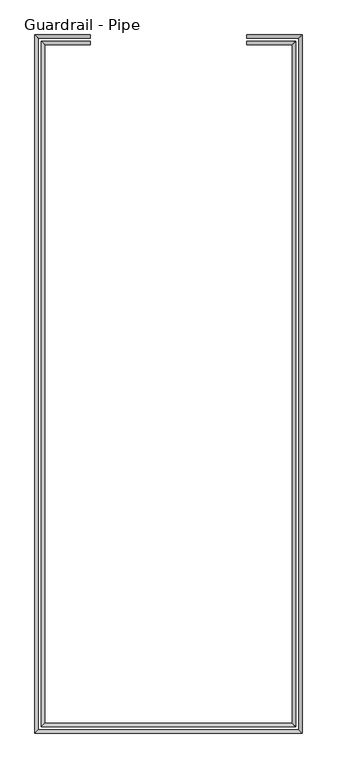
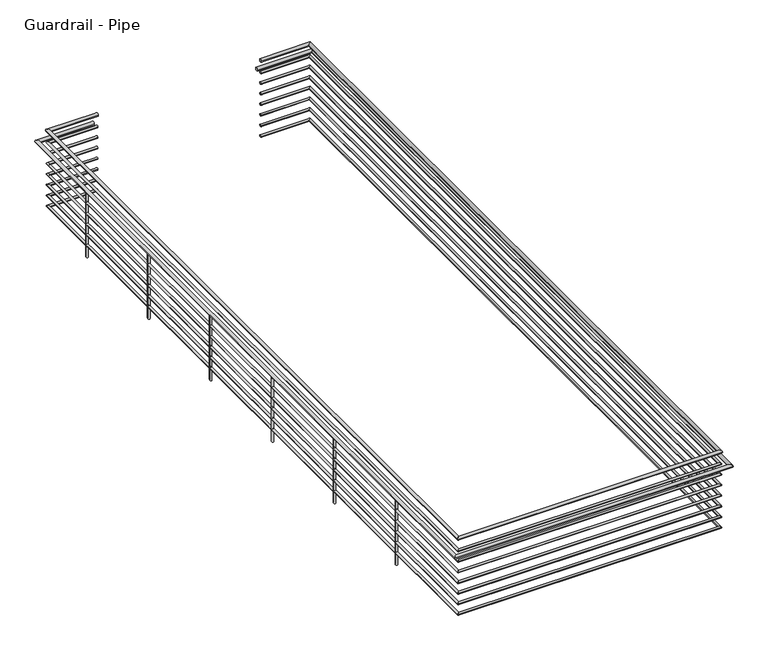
"""IFC4 building model written with IfcOpenShell, lengths in millimetres: railing geometry, Guardrail - Pipe."""

from ifc_helpers import new_model, si_unit, frame, origin, place, context, project, spatial, circle_curve, ellipse_curve, source, transform, mapped, element, save
from ifc_brep_helpers import plane_surface, cylinder_surface, advanced_brep


def guardrail_pipe_deec17ca(model_context):
    return source(origin(), model_context, "Body", "AdvancedBrep", [
        advanced_brep(
        [(13389.3313551, 18983.25, 8362.95), (13389.3313551, 18945.15, 8362.95), (13967.1813551, 18983.25, 8362.95), (13929.0813551, 18945.15, 8362.95), (13967.1813551, 10867.95, 8362.95), (13929.0813551, 10906.05, 8362.95), (10956.4813551, 10867.95, 8362.95), (10994.5813551, 10906.05, 8362.95), (10956.4813551, 18983.25, 8362.95), (10994.5813551, 18945.15, 8362.95), (11534.3313551, 18983.25, 8362.95), (11534.3313551, 18945.15, 8362.95)],
        [
            (0, 1, circle_curve(frame((13389.3313551, 18964.2, 8362.95), z_axis=(-1.0, 0.0, 0.0), x_axis=(0.0, -1.0, 0.0)), 19.05)),
            (1, 0, circle_curve(frame((13389.3313551, 18964.2, 8362.95), z_axis=(-1.0, 0.0, 0.0), x_axis=(0.0, -1.0, 0.0)), 19.05)),
            (0, 2),
            (2, 3, ellipse_curve(frame((13948.1313551, 18964.2, 8362.95), z_axis=(-0.7071067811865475, 0.7071067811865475, 0.0), x_axis=(-0.7071067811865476, -0.7071067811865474, 0.0)), 26.9407684, 19.05)),
            (3, 1),
            (3, 2, ellipse_curve(frame((13948.1313551, 18964.2, 8362.95), z_axis=(-0.7071067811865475, 0.7071067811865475, 0.0), x_axis=(-0.7071067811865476, -0.7071067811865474, 0.0)), 26.9407684, 19.05)),
            (2, 4),
            (4, 5, ellipse_curve(frame((13948.1313551, 10887.0, 8362.95), z_axis=(0.7071067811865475, 0.7071067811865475, 0.0), x_axis=(-0.7071067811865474, 0.7071067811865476, 0.0)), 26.9407684, 19.05)),
            (5, 3),
            (5, 4, ellipse_curve(frame((13948.1313551, 10887.0, 8362.95), z_axis=(0.7071067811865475, 0.7071067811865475, 0.0), x_axis=(-0.7071067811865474, 0.7071067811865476, 0.0)), 26.9407684, 19.05)),
            (4, 6),
            (6, 7, ellipse_curve(frame((10975.5313551, 10887.0, 8362.95), z_axis=(0.7071067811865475, -0.7071067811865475, 0.0), x_axis=(0.7071067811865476, 0.7071067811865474, 0.0)), 26.9407684, 19.05)),
            (7, 5),
            (7, 6, ellipse_curve(frame((10975.5313551, 10887.0, 8362.95), z_axis=(0.7071067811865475, -0.7071067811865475, 0.0), x_axis=(0.7071067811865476, 0.7071067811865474, 0.0)), 26.9407684, 19.05)),
            (6, 8),
            (8, 9, ellipse_curve(frame((10975.5313551, 18964.2, 8362.95), z_axis=(-0.7071067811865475, -0.7071067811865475, 0.0), x_axis=(0.7071067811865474, -0.7071067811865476, 0.0)), 26.9407684, 19.05)),
            (9, 7),
            (9, 8, ellipse_curve(frame((10975.5313551, 18964.2, 8362.95), z_axis=(-0.7071067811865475, -0.7071067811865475, 0.0), x_axis=(0.7071067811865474, -0.7071067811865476, 0.0)), 26.9407684, 19.05)),
            (10, 11, circle_curve(frame((11534.3313551, 18964.2, 8362.95), z_axis=(1.0, 0.0, 0.0), x_axis=(0.0, -1.0, 0.0)), 19.05)),
            (11, 10, circle_curve(frame((11534.3313551, 18964.2, 8362.95), z_axis=(1.0, 0.0, 0.0), x_axis=(0.0, -1.0, 0.0)), 19.05)),
            (8, 10),
            (11, 9),
        ],
        [
            plane_surface(frame((13389.3313551, 18964.2, 8382.0), z_axis=(-1.0, 0.0, 0.0), x_axis=(0.0, 1.0, 0.0))),
            cylinder_surface(frame((13389.3313551, 18964.2, 8362.95), z_axis=(-1.0, 0.0, 0.0), x_axis=(0.0, -1.0, 0.0)), 19.05),
            cylinder_surface(frame((13948.1313551, 18964.2, 8362.95), z_axis=(0.0, 1.0, 0.0), x_axis=(-1.0, 0.0, 0.0)), 19.05),
            cylinder_surface(frame((13948.1313551, 10887.0, 8362.95), z_axis=(1.0, 0.0, 0.0), x_axis=(0.0, 1.0, 0.0)), 19.05),
            cylinder_surface(frame((10975.5313551, 10887.0, 8362.95), z_axis=(0.0, -1.0, 0.0), x_axis=(1.0, 0.0, 0.0)), 19.05),
            plane_surface(frame((11534.3313551, 18964.2, 8382.0), z_axis=(1.0, 0.0, 0.0), x_axis=(0.0, 1.0, 0.0))),
            cylinder_surface(frame((10975.5313551, 18964.2, 8362.95), z_axis=(-1.0, 0.0, 0.0), x_axis=(0.0, -1.0, 0.0)), 19.05),
        ],
        [
            (0, [[1, 2]]),
            (1, [[-1, 3, 4, 5]]),
            (1, [[-2, -5, 6, -3]]),
            (2, [[-4, 7, 8, 9]]),
            (2, [[-6, -9, 10, -7]]),
            (3, [[-8, 11, 12, 13]]),
            (3, [[-10, -13, 14, -11]]),
            (4, [[-12, 15, 16, 17]]),
            (4, [[-14, -17, 18, -15]]),
            (5, [[19, 20]]),
            (6, [[-16, 21, -20, 22]]),
            (6, [[-18, -22, -19, -21]]),
        ],
    ),
        advanced_brep(
        [(13389.3313551, 18976.9, 8216.9), (13389.3313551, 18951.5, 8216.9), (13960.8313551, 18976.9, 8216.9), (13935.4313551, 18951.5, 8216.9), (13960.8313551, 10874.3, 8216.9), (13935.4313551, 10899.7, 8216.9), (10962.8313551, 10874.3, 8216.9), (10988.2313551, 10899.7, 8216.9), (10962.8313551, 18976.9, 8216.9), (10988.2313551, 18951.5, 8216.9), (11534.3313551, 18976.9, 8216.9), (11534.3313551, 18951.5, 8216.9)],
        [
            (0, 1, circle_curve(frame((13389.3313551, 18964.2, 8216.9), z_axis=(-1.0, 0.0, 0.0), x_axis=(0.0, -1.0, 0.0)), 12.7)),
            (1, 0, circle_curve(frame((13389.3313551, 18964.2, 8216.9), z_axis=(-1.0, 0.0, 0.0), x_axis=(0.0, -1.0, 0.0)), 12.7)),
            (0, 2),
            (2, 3, ellipse_curve(frame((13948.1313551, 18964.2, 8216.9), z_axis=(-0.7071067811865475, 0.7071067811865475, 0.0), x_axis=(-0.7071067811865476, -0.7071067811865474, 0.0)), 17.9605122, 12.7)),
            (3, 1),
            (3, 2, ellipse_curve(frame((13948.1313551, 18964.2, 8216.9), z_axis=(-0.7071067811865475, 0.7071067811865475, 0.0), x_axis=(-0.7071067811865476, -0.7071067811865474, 0.0)), 17.9605122, 12.7)),
            (2, 4),
            (4, 5, ellipse_curve(frame((13948.1313551, 10887.0, 8216.9), z_axis=(0.7071067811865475, 0.7071067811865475, 0.0), x_axis=(-0.7071067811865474, 0.7071067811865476, 0.0)), 17.9605122, 12.7)),
            (5, 3),
            (5, 4, ellipse_curve(frame((13948.1313551, 10887.0, 8216.9), z_axis=(0.7071067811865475, 0.7071067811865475, 0.0), x_axis=(-0.7071067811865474, 0.7071067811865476, 0.0)), 17.9605122, 12.7)),
            (4, 6),
            (6, 7, ellipse_curve(frame((10975.5313551, 10887.0, 8216.9), z_axis=(0.7071067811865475, -0.7071067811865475, 0.0), x_axis=(0.7071067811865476, 0.7071067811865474, 0.0)), 17.9605122, 12.7)),
            (7, 5),
            (7, 6, ellipse_curve(frame((10975.5313551, 10887.0, 8216.9), z_axis=(0.7071067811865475, -0.7071067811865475, 0.0), x_axis=(0.7071067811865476, 0.7071067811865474, 0.0)), 17.9605122, 12.7)),
            (6, 8),
            (8, 9, ellipse_curve(frame((10975.5313551, 18964.2, 8216.9), z_axis=(-0.7071067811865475, -0.7071067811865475, 0.0), x_axis=(0.7071067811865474, -0.7071067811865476, 0.0)), 17.9605122, 12.7)),
            (9, 7),
            (9, 8, ellipse_curve(frame((10975.5313551, 18964.2, 8216.9), z_axis=(-0.7071067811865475, -0.7071067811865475, 0.0), x_axis=(0.7071067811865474, -0.7071067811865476, 0.0)), 17.9605122, 12.7)),
            (10, 11, circle_curve(frame((11534.3313551, 18964.2, 8216.9), z_axis=(1.0, 0.0, 0.0), x_axis=(0.0, -1.0, 0.0)), 12.7)),
            (11, 10, circle_curve(frame((11534.3313551, 18964.2, 8216.9), z_axis=(1.0, 0.0, 0.0), x_axis=(0.0, -1.0, 0.0)), 12.7)),
            (8, 10),
            (11, 9),
        ],
        [
            plane_surface(frame((13389.3313551, 18964.2, 8229.6), z_axis=(-1.0, 0.0, 0.0), x_axis=(0.0, 1.0, 0.0))),
            cylinder_surface(frame((13389.3313551, 18964.2, 8216.9), z_axis=(-1.0, 0.0, 0.0), x_axis=(0.0, -1.0, 0.0)), 12.7),
            cylinder_surface(frame((13948.1313551, 18964.2, 8216.9), z_axis=(0.0, 1.0, 0.0), x_axis=(-1.0, 0.0, 0.0)), 12.7),
            cylinder_surface(frame((13948.1313551, 10887.0, 8216.9), z_axis=(1.0, 0.0, 0.0), x_axis=(0.0, 1.0, 0.0)), 12.7),
            cylinder_surface(frame((10975.5313551, 10887.0, 8216.9), z_axis=(0.0, -1.0, 0.0), x_axis=(1.0, 0.0, 0.0)), 12.7),
            plane_surface(frame((11534.3313551, 18964.2, 8229.6), z_axis=(1.0, 0.0, 0.0), x_axis=(0.0, 1.0, 0.0))),
            cylinder_surface(frame((10975.5313551, 18964.2, 8216.9), z_axis=(-1.0, 0.0, 0.0), x_axis=(0.0, -1.0, 0.0)), 12.7),
        ],
        [
            (0, [[1, 2]]),
            (1, [[-1, 3, 4, 5]]),
            (1, [[-2, -5, 6, -3]]),
            (2, [[-4, 7, 8, 9]]),
            (2, [[-6, -9, 10, -7]]),
            (3, [[-8, 11, 12, 13]]),
            (3, [[-10, -13, 14, -11]]),
            (4, [[-12, 15, 16, 17]]),
            (4, [[-14, -17, 18, -15]]),
            (5, [[19, 20]]),
            (6, [[-16, 21, -20, 22]]),
            (6, [[-18, -22, -19, -21]]),
        ],
    ),
        advanced_brep(
        [(13389.3313551, 19059.45, 8210.55), (13389.3313551, 19021.35, 8210.55), (14043.3813551, 19059.45, 8210.55), (14005.2813551, 19021.35, 8210.55), (14043.3813551, 10791.75, 8210.55), (14005.2813551, 10829.85, 8210.55), (10880.2813551, 10791.75, 8210.55), (10918.3813551, 10829.85, 8210.55), (10880.2813551, 19059.45, 8210.55), (10918.3813551, 19021.35, 8210.55), (11534.3313551, 19059.45, 8210.55), (11534.3313551, 19021.35, 8210.55)],
        [
            (0, 1, circle_curve(frame((13389.3313551, 19040.4, 8210.55), z_axis=(-1.0, 0.0, 0.0), x_axis=(0.0, -1.0, 0.0)), 19.05)),
            (1, 0, circle_curve(frame((13389.3313551, 19040.4, 8210.55), z_axis=(-1.0, 0.0, 0.0), x_axis=(0.0, -1.0, 0.0)), 19.05)),
            (0, 2),
            (2, 3, ellipse_curve(frame((14024.3313551, 19040.4, 8210.55), z_axis=(-0.7071067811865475, 0.7071067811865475, 0.0), x_axis=(-0.7071067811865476, -0.7071067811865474, 0.0)), 26.9407684, 19.05)),
            (3, 1),
            (3, 2, ellipse_curve(frame((14024.3313551, 19040.4, 8210.55), z_axis=(-0.7071067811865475, 0.7071067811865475, 0.0), x_axis=(-0.7071067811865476, -0.7071067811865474, 0.0)), 26.9407684, 19.05)),
            (2, 4),
            (4, 5, ellipse_curve(frame((14024.3313551, 10810.8, 8210.55), z_axis=(0.7071067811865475, 0.7071067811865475, 0.0), x_axis=(-0.7071067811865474, 0.7071067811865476, 0.0)), 26.9407684, 19.05)),
            (5, 3),
            (5, 4, ellipse_curve(frame((14024.3313551, 10810.8, 8210.55), z_axis=(0.7071067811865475, 0.7071067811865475, 0.0), x_axis=(-0.7071067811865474, 0.7071067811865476, 0.0)), 26.9407684, 19.05)),
            (4, 6),
            (6, 7, ellipse_curve(frame((10899.3313551, 10810.8, 8210.55), z_axis=(0.7071067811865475, -0.7071067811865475, 0.0), x_axis=(0.7071067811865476, 0.7071067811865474, 0.0)), 26.9407684, 19.05)),
            (7, 5),
            (7, 6, ellipse_curve(frame((10899.3313551, 10810.8, 8210.55), z_axis=(0.7071067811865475, -0.7071067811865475, 0.0), x_axis=(0.7071067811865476, 0.7071067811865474, 0.0)), 26.9407684, 19.05)),
            (6, 8),
            (8, 9, ellipse_curve(frame((10899.3313551, 19040.4, 8210.55), z_axis=(-0.7071067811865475, -0.7071067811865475, 0.0), x_axis=(0.7071067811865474, -0.7071067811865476, 0.0)), 26.9407684, 19.05)),
            (9, 7),
            (9, 8, ellipse_curve(frame((10899.3313551, 19040.4, 8210.55), z_axis=(-0.7071067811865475, -0.7071067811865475, 0.0), x_axis=(0.7071067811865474, -0.7071067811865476, 0.0)), 26.9407684, 19.05)),
            (10, 11, circle_curve(frame((11534.3313551, 19040.4, 8210.55), z_axis=(1.0, 0.0, 0.0), x_axis=(0.0, -1.0, 0.0)), 19.05)),
            (11, 10, circle_curve(frame((11534.3313551, 19040.4, 8210.55), z_axis=(1.0, 0.0, 0.0), x_axis=(0.0, -1.0, 0.0)), 19.05)),
            (8, 10),
            (11, 9),
        ],
        [
            plane_surface(frame((13389.3313551, 19040.4, 8229.6), z_axis=(-1.0, 0.0, 0.0), x_axis=(0.0, 1.0, 0.0))),
            cylinder_surface(frame((13389.3313551, 19040.4, 8210.55), z_axis=(-1.0, 0.0, 0.0), x_axis=(0.0, -1.0, 0.0)), 19.05),
            cylinder_surface(frame((14024.3313551, 19040.4, 8210.55), z_axis=(0.0, 1.0, 0.0), x_axis=(-1.0, 0.0, 0.0)), 19.05),
            cylinder_surface(frame((14024.3313551, 10810.8, 8210.55), z_axis=(1.0, 0.0, 0.0), x_axis=(0.0, 1.0, 0.0)), 19.05),
            cylinder_surface(frame((10899.3313551, 10810.8, 8210.55), z_axis=(0.0, -1.0, 0.0), x_axis=(1.0, 0.0, 0.0)), 19.05),
            plane_surface(frame((11534.3313551, 19040.4, 8229.6), z_axis=(1.0, 0.0, 0.0), x_axis=(0.0, 1.0, 0.0))),
            cylinder_surface(frame((10899.3313551, 19040.4, 8210.55), z_axis=(-1.0, 0.0, 0.0), x_axis=(0.0, -1.0, 0.0)), 19.05),
        ],
        [
            (0, [[1, 2]]),
            (1, [[-1, 3, 4, 5]]),
            (1, [[-2, -5, 6, -3]]),
            (2, [[-4, 7, 8, 9]]),
            (2, [[-6, -9, 10, -7]]),
            (3, [[-8, 11, 12, 13]]),
            (3, [[-10, -13, 14, -11]]),
            (4, [[-12, 15, 16, 17]]),
            (4, [[-14, -17, 18, -15]]),
            (5, [[19, 20]]),
            (6, [[-16, 21, -20, 22]]),
            (6, [[-18, -22, -19, -21]]),
        ],
    ),
        advanced_brep(
        [(13389.3313551, 18976.9, 8089.9), (13389.3313551, 18951.5, 8089.9), (13960.8313551, 18976.9, 8089.9), (13935.4313551, 18951.5, 8089.9), (13960.8313551, 10874.3, 8089.9), (13935.4313551, 10899.7, 8089.9), (10962.8313551, 10874.3, 8089.9), (10988.2313551, 10899.7, 8089.9), (10962.8313551, 18976.9, 8089.9), (10988.2313551, 18951.5, 8089.9), (11534.3313551, 18976.9, 8089.9), (11534.3313551, 18951.5, 8089.9)],
        [
            (0, 1, circle_curve(frame((13389.3313551, 18964.2, 8089.9), z_axis=(-1.0, 0.0, 0.0), x_axis=(0.0, -1.0, 0.0)), 12.7)),
            (1, 0, circle_curve(frame((13389.3313551, 18964.2, 8089.9), z_axis=(-1.0, 0.0, 0.0), x_axis=(0.0, -1.0, 0.0)), 12.7)),
            (0, 2),
            (2, 3, ellipse_curve(frame((13948.1313551, 18964.2, 8089.9), z_axis=(-0.7071067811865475, 0.7071067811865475, 0.0), x_axis=(-0.7071067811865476, -0.7071067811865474, 0.0)), 17.9605122, 12.7)),
            (3, 1),
            (3, 2, ellipse_curve(frame((13948.1313551, 18964.2, 8089.9), z_axis=(-0.7071067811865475, 0.7071067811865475, 0.0), x_axis=(-0.7071067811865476, -0.7071067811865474, 0.0)), 17.9605122, 12.7)),
            (2, 4),
            (4, 5, ellipse_curve(frame((13948.1313551, 10887.0, 8089.9), z_axis=(0.7071067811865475, 0.7071067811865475, 0.0), x_axis=(-0.7071067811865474, 0.7071067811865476, 0.0)), 17.9605122, 12.7)),
            (5, 3),
            (5, 4, ellipse_curve(frame((13948.1313551, 10887.0, 8089.9), z_axis=(0.7071067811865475, 0.7071067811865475, 0.0), x_axis=(-0.7071067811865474, 0.7071067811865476, 0.0)), 17.9605122, 12.7)),
            (4, 6),
            (6, 7, ellipse_curve(frame((10975.5313551, 10887.0, 8089.9), z_axis=(0.7071067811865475, -0.7071067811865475, 0.0), x_axis=(0.7071067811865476, 0.7071067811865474, 0.0)), 17.9605122, 12.7)),
            (7, 5),
            (7, 6, ellipse_curve(frame((10975.5313551, 10887.0, 8089.9), z_axis=(0.7071067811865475, -0.7071067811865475, 0.0), x_axis=(0.7071067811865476, 0.7071067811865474, 0.0)), 17.9605122, 12.7)),
            (6, 8),
            (8, 9, ellipse_curve(frame((10975.5313551, 18964.2, 8089.9), z_axis=(-0.7071067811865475, -0.7071067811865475, 0.0), x_axis=(0.7071067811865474, -0.7071067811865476, 0.0)), 17.9605122, 12.7)),
            (9, 7),
            (9, 8, ellipse_curve(frame((10975.5313551, 18964.2, 8089.9), z_axis=(-0.7071067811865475, -0.7071067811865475, 0.0), x_axis=(0.7071067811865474, -0.7071067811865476, 0.0)), 17.9605122, 12.7)),
            (10, 11, circle_curve(frame((11534.3313551, 18964.2, 8089.9), z_axis=(1.0, 0.0, 0.0), x_axis=(0.0, -1.0, 0.0)), 12.7)),
            (11, 10, circle_curve(frame((11534.3313551, 18964.2, 8089.9), z_axis=(1.0, 0.0, 0.0), x_axis=(0.0, -1.0, 0.0)), 12.7)),
            (8, 10),
            (11, 9),
        ],
        [
            plane_surface(frame((13389.3313551, 18964.2, 8102.6), z_axis=(-1.0, 0.0, 0.0), x_axis=(0.0, 1.0, 0.0))),
            cylinder_surface(frame((13389.3313551, 18964.2, 8089.9), z_axis=(-1.0, 0.0, 0.0), x_axis=(0.0, -1.0, 0.0)), 12.7),
            cylinder_surface(frame((13948.1313551, 18964.2, 8089.9), z_axis=(0.0, 1.0, 0.0), x_axis=(-1.0, 0.0, 0.0)), 12.7),
            cylinder_surface(frame((13948.1313551, 10887.0, 8089.9), z_axis=(1.0, 0.0, 0.0), x_axis=(0.0, 1.0, 0.0)), 12.7),
            cylinder_surface(frame((10975.5313551, 10887.0, 8089.9), z_axis=(0.0, -1.0, 0.0), x_axis=(1.0, 0.0, 0.0)), 12.7),
            plane_surface(frame((11534.3313551, 18964.2, 8102.6), z_axis=(1.0, 0.0, 0.0), x_axis=(0.0, 1.0, 0.0))),
            cylinder_surface(frame((10975.5313551, 18964.2, 8089.9), z_axis=(-1.0, 0.0, 0.0), x_axis=(0.0, -1.0, 0.0)), 12.7),
        ],
        [
            (0, [[1, 2]]),
            (1, [[-1, 3, 4, 5]]),
            (1, [[-2, -5, 6, -3]]),
            (2, [[-4, 7, 8, 9]]),
            (2, [[-6, -9, 10, -7]]),
            (3, [[-8, 11, 12, 13]]),
            (3, [[-10, -13, 14, -11]]),
            (4, [[-12, 15, 16, 17]]),
            (4, [[-14, -17, 18, -15]]),
            (5, [[19, 20]]),
            (6, [[-16, 21, -20, 22]]),
            (6, [[-18, -22, -19, -21]]),
        ],
    ),
        advanced_brep(
        [(13389.3313551, 18976.9, 7962.9), (13389.3313551, 18951.5, 7962.9), (13960.8313551, 18976.9, 7962.9), (13935.4313551, 18951.5, 7962.9), (13960.8313551, 10874.3, 7962.9), (13935.4313551, 10899.7, 7962.9), (10962.8313551, 10874.3, 7962.9), (10988.2313551, 10899.7, 7962.9), (10962.8313551, 18976.9, 7962.9), (10988.2313551, 18951.5, 7962.9), (11534.3313551, 18976.9, 7962.9), (11534.3313551, 18951.5, 7962.9)],
        [
            (0, 1, circle_curve(frame((13389.3313551, 18964.2, 7962.9), z_axis=(-1.0, 0.0, 0.0), x_axis=(0.0, -1.0, 0.0)), 12.7)),
            (1, 0, circle_curve(frame((13389.3313551, 18964.2, 7962.9), z_axis=(-1.0, 0.0, 0.0), x_axis=(0.0, -1.0, 0.0)), 12.7)),
            (0, 2),
            (2, 3, ellipse_curve(frame((13948.1313551, 18964.2, 7962.9), z_axis=(-0.7071067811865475, 0.7071067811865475, 0.0), x_axis=(-0.7071067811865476, -0.7071067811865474, 0.0)), 17.9605122, 12.7)),
            (3, 1),
            (3, 2, ellipse_curve(frame((13948.1313551, 18964.2, 7962.9), z_axis=(-0.7071067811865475, 0.7071067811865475, 0.0), x_axis=(-0.7071067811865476, -0.7071067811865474, 0.0)), 17.9605122, 12.7)),
            (2, 4),
            (4, 5, ellipse_curve(frame((13948.1313551, 10887.0, 7962.9), z_axis=(0.7071067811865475, 0.7071067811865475, 0.0), x_axis=(-0.7071067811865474, 0.7071067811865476, 0.0)), 17.9605122, 12.7)),
            (5, 3),
            (5, 4, ellipse_curve(frame((13948.1313551, 10887.0, 7962.9), z_axis=(0.7071067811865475, 0.7071067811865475, 0.0), x_axis=(-0.7071067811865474, 0.7071067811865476, 0.0)), 17.9605122, 12.7)),
            (4, 6),
            (6, 7, ellipse_curve(frame((10975.5313551, 10887.0, 7962.9), z_axis=(0.7071067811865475, -0.7071067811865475, 0.0), x_axis=(0.7071067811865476, 0.7071067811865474, 0.0)), 17.9605122, 12.7)),
            (7, 5),
            (7, 6, ellipse_curve(frame((10975.5313551, 10887.0, 7962.9), z_axis=(0.7071067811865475, -0.7071067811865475, 0.0), x_axis=(0.7071067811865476, 0.7071067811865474, 0.0)), 17.9605122, 12.7)),
            (6, 8),
            (8, 9, ellipse_curve(frame((10975.5313551, 18964.2, 7962.9), z_axis=(-0.7071067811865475, -0.7071067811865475, 0.0), x_axis=(0.7071067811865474, -0.7071067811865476, 0.0)), 17.9605122, 12.7)),
            (9, 7),
            (9, 8, ellipse_curve(frame((10975.5313551, 18964.2, 7962.9), z_axis=(-0.7071067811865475, -0.7071067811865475, 0.0), x_axis=(0.7071067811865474, -0.7071067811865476, 0.0)), 17.9605122, 12.7)),
            (10, 11, circle_curve(frame((11534.3313551, 18964.2, 7962.9), z_axis=(1.0, 0.0, 0.0), x_axis=(0.0, -1.0, 0.0)), 12.7)),
            (11, 10, circle_curve(frame((11534.3313551, 18964.2, 7962.9), z_axis=(1.0, 0.0, 0.0), x_axis=(0.0, -1.0, 0.0)), 12.7)),
            (8, 10),
            (11, 9),
        ],
        [
            plane_surface(frame((13389.3313551, 18964.2, 7975.6), z_axis=(-1.0, 0.0, 0.0), x_axis=(0.0, 1.0, 0.0))),
            cylinder_surface(frame((13389.3313551, 18964.2, 7962.9), z_axis=(-1.0, 0.0, 0.0), x_axis=(0.0, -1.0, 0.0)), 12.7),
            cylinder_surface(frame((13948.1313551, 18964.2, 7962.9), z_axis=(0.0, 1.0, 0.0), x_axis=(-1.0, 0.0, 0.0)), 12.7),
            cylinder_surface(frame((13948.1313551, 10887.0, 7962.9), z_axis=(1.0, 0.0, 0.0), x_axis=(0.0, 1.0, 0.0)), 12.7),
            cylinder_surface(frame((10975.5313551, 10887.0, 7962.9), z_axis=(0.0, -1.0, 0.0), x_axis=(1.0, 0.0, 0.0)), 12.7),
            plane_surface(frame((11534.3313551, 18964.2, 7975.6), z_axis=(1.0, 0.0, 0.0), x_axis=(0.0, 1.0, 0.0))),
            cylinder_surface(frame((10975.5313551, 18964.2, 7962.9), z_axis=(-1.0, 0.0, 0.0), x_axis=(0.0, -1.0, 0.0)), 12.7),
        ],
        [
            (0, [[1, 2]]),
            (1, [[-1, 3, 4, 5]]),
            (1, [[-2, -5, 6, -3]]),
            (2, [[-4, 7, 8, 9]]),
            (2, [[-6, -9, 10, -7]]),
            (3, [[-8, 11, 12, 13]]),
            (3, [[-10, -13, 14, -11]]),
            (4, [[-12, 15, 16, 17]]),
            (4, [[-14, -17, 18, -15]]),
            (5, [[19, 20]]),
            (6, [[-16, 21, -20, 22]]),
            (6, [[-18, -22, -19, -21]]),
        ],
    ),
        advanced_brep(
        [(13389.3313551, 18976.9, 7835.9), (13389.3313551, 18951.5, 7835.9), (13960.8313551, 18976.9, 7835.9), (13935.4313551, 18951.5, 7835.9), (13960.8313551, 10874.3, 7835.9), (13935.4313551, 10899.7, 7835.9), (10962.8313551, 10874.3, 7835.9), (10988.2313551, 10899.7, 7835.9), (10962.8313551, 18976.9, 7835.9), (10988.2313551, 18951.5, 7835.9), (11534.3313551, 18976.9, 7835.9), (11534.3313551, 18951.5, 7835.9)],
        [
            (0, 1, circle_curve(frame((13389.3313551, 18964.2, 7835.9), z_axis=(-1.0, 0.0, 0.0), x_axis=(0.0, -1.0, 0.0)), 12.7)),
            (1, 0, circle_curve(frame((13389.3313551, 18964.2, 7835.9), z_axis=(-1.0, 0.0, 0.0), x_axis=(0.0, -1.0, 0.0)), 12.7)),
            (0, 2),
            (2, 3, ellipse_curve(frame((13948.1313551, 18964.2, 7835.9), z_axis=(-0.7071067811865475, 0.7071067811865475, 0.0), x_axis=(-0.7071067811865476, -0.7071067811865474, 0.0)), 17.9605122, 12.7)),
            (3, 1),
            (3, 2, ellipse_curve(frame((13948.1313551, 18964.2, 7835.9), z_axis=(-0.7071067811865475, 0.7071067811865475, 0.0), x_axis=(-0.7071067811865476, -0.7071067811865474, 0.0)), 17.9605122, 12.7)),
            (2, 4),
            (4, 5, ellipse_curve(frame((13948.1313551, 10887.0, 7835.9), z_axis=(0.7071067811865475, 0.7071067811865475, 0.0), x_axis=(-0.7071067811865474, 0.7071067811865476, 0.0)), 17.9605122, 12.7)),
            (5, 3),
            (5, 4, ellipse_curve(frame((13948.1313551, 10887.0, 7835.9), z_axis=(0.7071067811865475, 0.7071067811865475, 0.0), x_axis=(-0.7071067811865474, 0.7071067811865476, 0.0)), 17.9605122, 12.7)),
            (4, 6),
            (6, 7, ellipse_curve(frame((10975.5313551, 10887.0, 7835.9), z_axis=(0.7071067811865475, -0.7071067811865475, 0.0), x_axis=(0.7071067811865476, 0.7071067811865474, 0.0)), 17.9605122, 12.7)),
            (7, 5),
            (7, 6, ellipse_curve(frame((10975.5313551, 10887.0, 7835.9), z_axis=(0.7071067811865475, -0.7071067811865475, 0.0), x_axis=(0.7071067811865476, 0.7071067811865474, 0.0)), 17.9605122, 12.7)),
            (6, 8),
            (8, 9, ellipse_curve(frame((10975.5313551, 18964.2, 7835.9), z_axis=(-0.7071067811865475, -0.7071067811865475, 0.0), x_axis=(0.7071067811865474, -0.7071067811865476, 0.0)), 17.9605122, 12.7)),
            (9, 7),
            (9, 8, ellipse_curve(frame((10975.5313551, 18964.2, 7835.9), z_axis=(-0.7071067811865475, -0.7071067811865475, 0.0), x_axis=(0.7071067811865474, -0.7071067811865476, 0.0)), 17.9605122, 12.7)),
            (10, 11, circle_curve(frame((11534.3313551, 18964.2, 7835.9), z_axis=(1.0, 0.0, 0.0), x_axis=(0.0, -1.0, 0.0)), 12.7)),
            (11, 10, circle_curve(frame((11534.3313551, 18964.2, 7835.9), z_axis=(1.0, 0.0, 0.0), x_axis=(0.0, -1.0, 0.0)), 12.7)),
            (8, 10),
            (11, 9),
        ],
        [
            plane_surface(frame((13389.3313551, 18964.2, 7848.6), z_axis=(-1.0, 0.0, 0.0), x_axis=(0.0, 1.0, 0.0))),
            cylinder_surface(frame((13389.3313551, 18964.2, 7835.9), z_axis=(-1.0, 0.0, 0.0), x_axis=(0.0, -1.0, 0.0)), 12.7),
            cylinder_surface(frame((13948.1313551, 18964.2, 7835.9), z_axis=(0.0, 1.0, 0.0), x_axis=(-1.0, 0.0, 0.0)), 12.7),
            cylinder_surface(frame((13948.1313551, 10887.0, 7835.9), z_axis=(1.0, 0.0, 0.0), x_axis=(0.0, 1.0, 0.0)), 12.7),
            cylinder_surface(frame((10975.5313551, 10887.0, 7835.9), z_axis=(0.0, -1.0, 0.0), x_axis=(1.0, 0.0, 0.0)), 12.7),
            plane_surface(frame((11534.3313551, 18964.2, 7848.6), z_axis=(1.0, 0.0, 0.0), x_axis=(0.0, 1.0, 0.0))),
            cylinder_surface(frame((10975.5313551, 18964.2, 7835.9), z_axis=(-1.0, 0.0, 0.0), x_axis=(0.0, -1.0, 0.0)), 12.7),
        ],
        [
            (0, [[1, 2]]),
            (1, [[-1, 3, 4, 5]]),
            (1, [[-2, -5, 6, -3]]),
            (2, [[-4, 7, 8, 9]]),
            (2, [[-6, -9, 10, -7]]),
            (3, [[-8, 11, 12, 13]]),
            (3, [[-10, -13, 14, -11]]),
            (4, [[-12, 15, 16, 17]]),
            (4, [[-14, -17, 18, -15]]),
            (5, [[19, 20]]),
            (6, [[-16, 21, -20, 22]]),
            (6, [[-18, -22, -19, -21]]),
        ],
    ),
        advanced_brep(
        [(13389.3313551, 18976.9, 7708.9), (13389.3313551, 18951.5, 7708.9), (13960.8313551, 18976.9, 7708.9), (13935.4313551, 18951.5, 7708.9), (13960.8313551, 10874.3, 7708.9), (13935.4313551, 10899.7, 7708.9), (10962.8313551, 10874.3, 7708.9), (10988.2313551, 10899.7, 7708.9), (10962.8313551, 18976.9, 7708.9), (10988.2313551, 18951.5, 7708.9), (11534.3313551, 18976.9, 7708.9), (11534.3313551, 18951.5, 7708.9)],
        [
            (0, 1, circle_curve(frame((13389.3313551, 18964.2, 7708.9), z_axis=(-1.0, 0.0, 0.0), x_axis=(0.0, -1.0, 0.0)), 12.7)),
            (1, 0, circle_curve(frame((13389.3313551, 18964.2, 7708.9), z_axis=(-1.0, 0.0, 0.0), x_axis=(0.0, -1.0, 0.0)), 12.7)),
            (0, 2),
            (2, 3, ellipse_curve(frame((13948.1313551, 18964.2, 7708.9), z_axis=(-0.7071067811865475, 0.7071067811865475, 0.0), x_axis=(-0.7071067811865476, -0.7071067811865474, 0.0)), 17.9605122, 12.7)),
            (3, 1),
            (3, 2, ellipse_curve(frame((13948.1313551, 18964.2, 7708.9), z_axis=(-0.7071067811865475, 0.7071067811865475, 0.0), x_axis=(-0.7071067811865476, -0.7071067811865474, 0.0)), 17.9605122, 12.7)),
            (2, 4),
            (4, 5, ellipse_curve(frame((13948.1313551, 10887.0, 7708.9), z_axis=(0.7071067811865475, 0.7071067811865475, 0.0), x_axis=(-0.7071067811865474, 0.7071067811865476, 0.0)), 17.9605122, 12.7)),
            (5, 3),
            (5, 4, ellipse_curve(frame((13948.1313551, 10887.0, 7708.9), z_axis=(0.7071067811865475, 0.7071067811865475, 0.0), x_axis=(-0.7071067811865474, 0.7071067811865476, 0.0)), 17.9605122, 12.7)),
            (4, 6),
            (6, 7, ellipse_curve(frame((10975.5313551, 10887.0, 7708.9), z_axis=(0.7071067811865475, -0.7071067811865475, 0.0), x_axis=(0.7071067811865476, 0.7071067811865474, 0.0)), 17.9605122, 12.7)),
            (7, 5),
            (7, 6, ellipse_curve(frame((10975.5313551, 10887.0, 7708.9), z_axis=(0.7071067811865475, -0.7071067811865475, 0.0), x_axis=(0.7071067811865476, 0.7071067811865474, 0.0)), 17.9605122, 12.7)),
            (6, 8),
            (8, 9, ellipse_curve(frame((10975.5313551, 18964.2, 7708.9), z_axis=(-0.7071067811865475, -0.7071067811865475, 0.0), x_axis=(0.7071067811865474, -0.7071067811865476, 0.0)), 17.9605122, 12.7)),
            (9, 7),
            (9, 8, ellipse_curve(frame((10975.5313551, 18964.2, 7708.9), z_axis=(-0.7071067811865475, -0.7071067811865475, 0.0), x_axis=(0.7071067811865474, -0.7071067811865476, 0.0)), 17.9605122, 12.7)),
            (10, 11, circle_curve(frame((11534.3313551, 18964.2, 7708.9), z_axis=(1.0, 0.0, 0.0), x_axis=(0.0, -1.0, 0.0)), 12.7)),
            (11, 10, circle_curve(frame((11534.3313551, 18964.2, 7708.9), z_axis=(1.0, 0.0, 0.0), x_axis=(0.0, -1.0, 0.0)), 12.7)),
            (8, 10),
            (11, 9),
        ],
        [
            plane_surface(frame((13389.3313551, 18964.2, 7721.6), z_axis=(-1.0, 0.0, 0.0), x_axis=(0.0, 1.0, 0.0))),
            cylinder_surface(frame((13389.3313551, 18964.2, 7708.9), z_axis=(-1.0, 0.0, 0.0), x_axis=(0.0, -1.0, 0.0)), 12.7),
            cylinder_surface(frame((13948.1313551, 18964.2, 7708.9), z_axis=(0.0, 1.0, 0.0), x_axis=(-1.0, 0.0, 0.0)), 12.7),
            cylinder_surface(frame((13948.1313551, 10887.0, 7708.9), z_axis=(1.0, 0.0, 0.0), x_axis=(0.0, 1.0, 0.0)), 12.7),
            cylinder_surface(frame((10975.5313551, 10887.0, 7708.9), z_axis=(0.0, -1.0, 0.0), x_axis=(1.0, 0.0, 0.0)), 12.7),
            plane_surface(frame((11534.3313551, 18964.2, 7721.6), z_axis=(1.0, 0.0, 0.0), x_axis=(0.0, 1.0, 0.0))),
            cylinder_surface(frame((10975.5313551, 18964.2, 7708.9), z_axis=(-1.0, 0.0, 0.0), x_axis=(0.0, -1.0, 0.0)), 12.7),
        ],
        [
            (0, [[1, 2]]),
            (1, [[-1, 3, 4, 5]]),
            (1, [[-2, -5, 6, -3]]),
            (2, [[-4, 7, 8, 9]]),
            (2, [[-6, -9, 10, -7]]),
            (3, [[-8, 11, 12, 13]]),
            (3, [[-10, -13, 14, -11]]),
            (4, [[-12, 15, 16, 17]]),
            (4, [[-14, -17, 18, -15]]),
            (5, [[19, 20]]),
            (6, [[-16, 21, -20, 22]]),
            (6, [[-18, -22, -19, -21]]),
        ],
    ),
        advanced_brep(
        [(13389.3313551, 18976.9, 7581.9), (13389.3313551, 18951.5, 7581.9), (13960.8313551, 18976.9, 7581.9), (13935.4313551, 18951.5, 7581.9), (13960.8313551, 10874.3, 7581.9), (13935.4313551, 10899.7, 7581.9), (10962.8313551, 10874.3, 7581.9), (10988.2313551, 10899.7, 7581.9), (10962.8313551, 18976.9, 7581.9), (10988.2313551, 18951.5, 7581.9), (11534.3313551, 18976.9, 7581.9), (11534.3313551, 18951.5, 7581.9)],
        [
            (0, 1, circle_curve(frame((13389.3313551, 18964.2, 7581.9), z_axis=(-1.0, 0.0, 0.0), x_axis=(0.0, -1.0, 0.0)), 12.7)),
            (1, 0, circle_curve(frame((13389.3313551, 18964.2, 7581.9), z_axis=(-1.0, 0.0, 0.0), x_axis=(0.0, -1.0, 0.0)), 12.7)),
            (0, 2),
            (2, 3, ellipse_curve(frame((13948.1313551, 18964.2, 7581.9), z_axis=(-0.7071067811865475, 0.7071067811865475, 0.0), x_axis=(-0.7071067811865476, -0.7071067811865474, 0.0)), 17.9605122, 12.7)),
            (3, 1),
            (3, 2, ellipse_curve(frame((13948.1313551, 18964.2, 7581.9), z_axis=(-0.7071067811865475, 0.7071067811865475, 0.0), x_axis=(-0.7071067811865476, -0.7071067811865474, 0.0)), 17.9605122, 12.7)),
            (2, 4),
            (4, 5, ellipse_curve(frame((13948.1313551, 10887.0, 7581.9), z_axis=(0.7071067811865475, 0.7071067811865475, 0.0), x_axis=(-0.7071067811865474, 0.7071067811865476, 0.0)), 17.9605122, 12.7)),
            (5, 3),
            (5, 4, ellipse_curve(frame((13948.1313551, 10887.0, 7581.9), z_axis=(0.7071067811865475, 0.7071067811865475, 0.0), x_axis=(-0.7071067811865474, 0.7071067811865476, 0.0)), 17.9605122, 12.7)),
            (4, 6),
            (6, 7, ellipse_curve(frame((10975.5313551, 10887.0, 7581.9), z_axis=(0.7071067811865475, -0.7071067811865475, 0.0), x_axis=(0.7071067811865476, 0.7071067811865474, 0.0)), 17.9605122, 12.7)),
            (7, 5),
            (7, 6, ellipse_curve(frame((10975.5313551, 10887.0, 7581.9), z_axis=(0.7071067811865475, -0.7071067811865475, 0.0), x_axis=(0.7071067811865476, 0.7071067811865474, 0.0)), 17.9605122, 12.7)),
            (6, 8),
            (8, 9, ellipse_curve(frame((10975.5313551, 18964.2, 7581.9), z_axis=(-0.7071067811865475, -0.7071067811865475, 0.0), x_axis=(0.7071067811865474, -0.7071067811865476, 0.0)), 17.9605122, 12.7)),
            (9, 7),
            (9, 8, ellipse_curve(frame((10975.5313551, 18964.2, 7581.9), z_axis=(-0.7071067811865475, -0.7071067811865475, 0.0), x_axis=(0.7071067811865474, -0.7071067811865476, 0.0)), 17.9605122, 12.7)),
            (10, 11, circle_curve(frame((11534.3313551, 18964.2, 7581.9), z_axis=(1.0, 0.0, 0.0), x_axis=(0.0, -1.0, 0.0)), 12.7)),
            (11, 10, circle_curve(frame((11534.3313551, 18964.2, 7581.9), z_axis=(1.0, 0.0, 0.0), x_axis=(0.0, -1.0, 0.0)), 12.7)),
            (8, 10),
            (11, 9),
        ],
        [
            plane_surface(frame((13389.3313551, 18964.2, 7594.6), z_axis=(-1.0, 0.0, 0.0), x_axis=(0.0, 1.0, 0.0))),
            cylinder_surface(frame((13389.3313551, 18964.2, 7581.9), z_axis=(-1.0, 0.0, 0.0), x_axis=(0.0, -1.0, 0.0)), 12.7),
            cylinder_surface(frame((13948.1313551, 18964.2, 7581.9), z_axis=(0.0, 1.0, 0.0), x_axis=(-1.0, 0.0, 0.0)), 12.7),
            cylinder_surface(frame((13948.1313551, 10887.0, 7581.9), z_axis=(1.0, 0.0, 0.0), x_axis=(0.0, 1.0, 0.0)), 12.7),
            cylinder_surface(frame((10975.5313551, 10887.0, 7581.9), z_axis=(0.0, -1.0, 0.0), x_axis=(1.0, 0.0, 0.0)), 12.7),
            plane_surface(frame((11534.3313551, 18964.2, 7594.6), z_axis=(1.0, 0.0, 0.0), x_axis=(0.0, 1.0, 0.0))),
            cylinder_surface(frame((10975.5313551, 18964.2, 7581.9), z_axis=(-1.0, 0.0, 0.0), x_axis=(0.0, -1.0, 0.0)), 12.7),
        ],
        [
            (0, [[1, 2]]),
            (1, [[-1, 3, 4, 5]]),
            (1, [[-2, -5, 6, -3]]),
            (2, [[-4, 7, 8, 9]]),
            (2, [[-6, -9, 10, -7]]),
            (3, [[-8, 11, 12, 13]]),
            (3, [[-10, -13, 14, -11]]),
            (4, [[-12, 15, 16, 17]]),
            (4, [[-14, -17, 18, -15]]),
            (5, [[19, 20]]),
            (6, [[-16, 21, -20, 22]]),
            (6, [[-18, -22, -19, -21]]),
        ],
    ),
        advanced_brep(
        [(13389.3313551, 18976.9, 7454.9), (13389.3313551, 18951.5, 7454.9), (13960.8313551, 18976.9, 7454.9), (13935.4313551, 18951.5, 7454.9), (13960.8313551, 10874.3, 7454.9), (13935.4313551, 10899.7, 7454.9), (10962.8313551, 10874.3, 7454.9), (10988.2313551, 10899.7, 7454.9), (10962.8313551, 18976.9, 7454.9), (10988.2313551, 18951.5, 7454.9), (11534.3313551, 18976.9, 7454.9), (11534.3313551, 18951.5, 7454.9)],
        [
            (0, 1, circle_curve(frame((13389.3313551, 18964.2, 7454.9), z_axis=(-1.0, 0.0, 0.0), x_axis=(0.0, -1.0, 0.0)), 12.7)),
            (1, 0, circle_curve(frame((13389.3313551, 18964.2, 7454.9), z_axis=(-1.0, 0.0, 0.0), x_axis=(0.0, -1.0, 0.0)), 12.7)),
            (0, 2),
            (2, 3, ellipse_curve(frame((13948.1313551, 18964.2, 7454.9), z_axis=(-0.7071067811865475, 0.7071067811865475, 0.0), x_axis=(-0.7071067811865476, -0.7071067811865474, 0.0)), 17.9605122, 12.7)),
            (3, 1),
            (3, 2, ellipse_curve(frame((13948.1313551, 18964.2, 7454.9), z_axis=(-0.7071067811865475, 0.7071067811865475, 0.0), x_axis=(-0.7071067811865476, -0.7071067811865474, 0.0)), 17.9605122, 12.7)),
            (2, 4),
            (4, 5, ellipse_curve(frame((13948.1313551, 10887.0, 7454.9), z_axis=(0.7071067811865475, 0.7071067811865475, 0.0), x_axis=(-0.7071067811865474, 0.7071067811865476, 0.0)), 17.9605122, 12.7)),
            (5, 3),
            (5, 4, ellipse_curve(frame((13948.1313551, 10887.0, 7454.9), z_axis=(0.7071067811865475, 0.7071067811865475, 0.0), x_axis=(-0.7071067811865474, 0.7071067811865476, 0.0)), 17.9605122, 12.7)),
            (4, 6),
            (6, 7, ellipse_curve(frame((10975.5313551, 10887.0, 7454.9), z_axis=(0.7071067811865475, -0.7071067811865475, 0.0), x_axis=(0.7071067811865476, 0.7071067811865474, 0.0)), 17.9605122, 12.7)),
            (7, 5),
            (7, 6, ellipse_curve(frame((10975.5313551, 10887.0, 7454.9), z_axis=(0.7071067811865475, -0.7071067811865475, 0.0), x_axis=(0.7071067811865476, 0.7071067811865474, 0.0)), 17.9605122, 12.7)),
            (6, 8),
            (8, 9, ellipse_curve(frame((10975.5313551, 18964.2, 7454.9), z_axis=(-0.7071067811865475, -0.7071067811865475, 0.0), x_axis=(0.7071067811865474, -0.7071067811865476, 0.0)), 17.9605122, 12.7)),
            (9, 7),
            (9, 8, ellipse_curve(frame((10975.5313551, 18964.2, 7454.9), z_axis=(-0.7071067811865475, -0.7071067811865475, 0.0), x_axis=(0.7071067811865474, -0.7071067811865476, 0.0)), 17.9605122, 12.7)),
            (10, 11, circle_curve(frame((11534.3313551, 18964.2, 7454.9), z_axis=(1.0, 0.0, 0.0), x_axis=(0.0, -1.0, 0.0)), 12.7)),
            (11, 10, circle_curve(frame((11534.3313551, 18964.2, 7454.9), z_axis=(1.0, 0.0, 0.0), x_axis=(0.0, -1.0, 0.0)), 12.7)),
            (8, 10),
            (11, 9),
        ],
        [
            plane_surface(frame((13389.3313551, 18964.2, 7467.6), z_axis=(-1.0, 0.0, 0.0), x_axis=(0.0, 1.0, 0.0))),
            cylinder_surface(frame((13389.3313551, 18964.2, 7454.9), z_axis=(-1.0, 0.0, 0.0), x_axis=(0.0, -1.0, 0.0)), 12.7),
            cylinder_surface(frame((13948.1313551, 18964.2, 7454.9), z_axis=(0.0, 1.0, 0.0), x_axis=(-1.0, 0.0, 0.0)), 12.7),
            cylinder_surface(frame((13948.1313551, 10887.0, 7454.9), z_axis=(1.0, 0.0, 0.0), x_axis=(0.0, 1.0, 0.0)), 12.7),
            cylinder_surface(frame((10975.5313551, 10887.0, 7454.9), z_axis=(0.0, -1.0, 0.0), x_axis=(1.0, 0.0, 0.0)), 12.7),
            plane_surface(frame((11534.3313551, 18964.2, 7467.6), z_axis=(1.0, 0.0, 0.0), x_axis=(0.0, 1.0, 0.0))),
            cylinder_surface(frame((10975.5313551, 18964.2, 7454.9), z_axis=(-1.0, 0.0, 0.0), x_axis=(0.0, -1.0, 0.0)), 12.7),
        ],
        [
            (0, [[1, 2]]),
            (1, [[-1, 3, 4, 5]]),
            (1, [[-2, -5, 6, -3]]),
            (2, [[-4, 7, 8, 9]]),
            (2, [[-6, -9, 10, -7]]),
            (3, [[-8, 11, 12, 13]]),
            (3, [[-10, -13, 14, -11]]),
            (4, [[-12, 15, 16, 17]]),
            (4, [[-14, -17, 18, -15]]),
            (5, [[19, 20]]),
            (6, [[-16, 21, -20, 22]]),
            (6, [[-18, -22, -19, -21]]),
        ],
    ),
        advanced_brep(
        [(10988.2313551, 18202.2, 8077.2), (10988.2313551, 18202.2, 7315.2), (10962.8313551, 18202.2, 7315.2), (10962.8313551, 18202.2, 8077.2)],
        [
            (0, 1),
            (1, 2, ellipse_curve(frame((10975.5313551, 18202.2, 7315.2), z_axis=(0.0, -0.536857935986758, 0.8436726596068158), x_axis=(0.0, 0.8436726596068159, 0.536857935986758)), 15.0532317, 12.7)),
            (2, 3),
            (3, 0, ellipse_curve(frame((10975.5313551, 18202.2, 8077.2), z_axis=(0.0, 0.5368579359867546, -0.8436726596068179), x_axis=(0.0, 0.843672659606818, 0.5368579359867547)), 15.0532317, 12.7)),
            (0, 3, ellipse_curve(frame((10975.5313551, 18202.2, 8077.2), z_axis=(0.0, 0.5368579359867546, -0.8436726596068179), x_axis=(0.0, 0.843672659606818, 0.5368579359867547)), 15.0532317, 12.7)),
            (2, 1, ellipse_curve(frame((10975.5313551, 18202.2, 7315.2), z_axis=(0.0, -0.536857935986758, 0.8436726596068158), x_axis=(0.0, 0.8436726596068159, 0.536857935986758)), 15.0532317, 12.7)),
        ],
        [
            cylinder_surface(frame((10975.5313551, 18202.2, 7086.6), z_axis=(0.0, 0.0, 1.0), x_axis=(-1.0, 0.0, 0.0)), 12.7),
            plane_surface(frame((10950.1313551, 18227.6, 8093.3628938), z_axis=(0.0, -0.5368579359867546, 0.8436726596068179), x_axis=(1.0, 0.0, 0.0))),
            plane_surface(frame((10950.1313551, 18176.8, 7299.0371062), z_axis=(0.0, 0.536857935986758, -0.8436726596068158), x_axis=(1.0, 0.0, 0.0))),
        ],
        [
            (0, [[1, 2, 3, 4]]),
            (0, [[-1, 5, -3, 6]]),
            (1, [[-4, -5]]),
            (2, [[-2, -6]]),
        ],
    ),
        advanced_brep(
        [(10988.2313551, 16983.0, 8077.2), (10988.2313551, 16983.0, 7315.2), (10962.8313551, 16983.0, 7315.2), (10962.8313551, 16983.0, 8077.2)],
        [
            (0, 1),
            (1, 2, ellipse_curve(frame((10975.5313551, 16983.0, 7315.2), z_axis=(0.0, -0.536857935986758, 0.8436726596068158), x_axis=(0.0, 0.8436726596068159, 0.536857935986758)), 15.0532317, 12.7)),
            (2, 3),
            (3, 0, ellipse_curve(frame((10975.5313551, 16983.0, 8077.2), z_axis=(0.0, 0.5368579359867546, -0.8436726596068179), x_axis=(0.0, 0.843672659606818, 0.5368579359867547)), 15.0532317, 12.7)),
            (0, 3, ellipse_curve(frame((10975.5313551, 16983.0, 8077.2), z_axis=(0.0, 0.5368579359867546, -0.8436726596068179), x_axis=(0.0, 0.843672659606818, 0.5368579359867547)), 15.0532317, 12.7)),
            (2, 1, ellipse_curve(frame((10975.5313551, 16983.0, 7315.2), z_axis=(0.0, -0.536857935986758, 0.8436726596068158), x_axis=(0.0, 0.8436726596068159, 0.536857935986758)), 15.0532317, 12.7)),
        ],
        [
            cylinder_surface(frame((10975.5313551, 16983.0, 7086.6), z_axis=(0.0, 0.0, 1.0), x_axis=(-1.0, 0.0, 0.0)), 12.7),
            plane_surface(frame((10950.1313551, 17008.4, 8093.3628938), z_axis=(0.0, -0.5368579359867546, 0.8436726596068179), x_axis=(1.0, 0.0, 0.0))),
            plane_surface(frame((10950.1313551, 16957.6, 7299.0371062), z_axis=(0.0, 0.536857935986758, -0.8436726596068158), x_axis=(1.0, 0.0, 0.0))),
        ],
        [
            (0, [[1, 2, 3, 4]]),
            (0, [[-1, 5, -3, 6]]),
            (1, [[-4, -5]]),
            (2, [[-2, -6]]),
        ],
    ),
        advanced_brep(
        [(10988.2313551, 15763.8, 8077.2), (10988.2313551, 15763.8, 7315.2), (10962.8313551, 15763.8, 7315.2), (10962.8313551, 15763.8, 8077.2)],
        [
            (0, 1),
            (1, 2, ellipse_curve(frame((10975.5313551, 15763.8, 7315.2), z_axis=(0.0, -0.536857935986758, 0.8436726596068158), x_axis=(0.0, 0.8436726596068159, 0.536857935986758)), 15.0532317, 12.7)),
            (2, 3),
            (3, 0, ellipse_curve(frame((10975.5313551, 15763.8, 8077.2), z_axis=(0.0, 0.5368579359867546, -0.8436726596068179), x_axis=(0.0, 0.843672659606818, 0.5368579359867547)), 15.0532317, 12.7)),
            (0, 3, ellipse_curve(frame((10975.5313551, 15763.8, 8077.2), z_axis=(0.0, 0.5368579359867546, -0.8436726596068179), x_axis=(0.0, 0.843672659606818, 0.5368579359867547)), 15.0532317, 12.7)),
            (2, 1, ellipse_curve(frame((10975.5313551, 15763.8, 7315.2), z_axis=(0.0, -0.536857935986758, 0.8436726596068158), x_axis=(0.0, 0.8436726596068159, 0.536857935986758)), 15.0532317, 12.7)),
        ],
        [
            cylinder_surface(frame((10975.5313551, 15763.8, 7086.6), z_axis=(0.0, 0.0, 1.0), x_axis=(-1.0, 0.0, 0.0)), 12.7),
            plane_surface(frame((10950.1313551, 15789.2, 8093.3628938), z_axis=(0.0, -0.5368579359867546, 0.8436726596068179), x_axis=(1.0, 0.0, 0.0))),
            plane_surface(frame((10950.1313551, 15738.4, 7299.0371062), z_axis=(0.0, 0.536857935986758, -0.8436726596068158), x_axis=(1.0, 0.0, 0.0))),
        ],
        [
            (0, [[1, 2, 3, 4]]),
            (0, [[-1, 5, -3, 6]]),
            (1, [[-4, -5]]),
            (2, [[-2, -6]]),
        ],
    ),
        advanced_brep(
        [(10988.2313551, 14544.6, 8077.2), (10988.2313551, 14544.6, 7315.2), (10962.8313551, 14544.6, 7315.2), (10962.8313551, 14544.6, 8077.2)],
        [
            (0, 1),
            (1, 2, ellipse_curve(frame((10975.5313551, 14544.6, 7315.2), z_axis=(0.0, -0.536857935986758, 0.8436726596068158), x_axis=(0.0, 0.8436726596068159, 0.536857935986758)), 15.0532317, 12.7)),
            (2, 3),
            (3, 0, ellipse_curve(frame((10975.5313551, 14544.6, 8077.2), z_axis=(0.0, 0.5368579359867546, -0.8436726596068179), x_axis=(0.0, 0.843672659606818, 0.5368579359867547)), 15.0532317, 12.7)),
            (0, 3, ellipse_curve(frame((10975.5313551, 14544.6, 8077.2), z_axis=(0.0, 0.5368579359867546, -0.8436726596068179), x_axis=(0.0, 0.843672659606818, 0.5368579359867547)), 15.0532317, 12.7)),
            (2, 1, ellipse_curve(frame((10975.5313551, 14544.6, 7315.2), z_axis=(0.0, -0.536857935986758, 0.8436726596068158), x_axis=(0.0, 0.8436726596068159, 0.536857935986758)), 15.0532317, 12.7)),
        ],
        [
            cylinder_surface(frame((10975.5313551, 14544.6, 7086.6), z_axis=(0.0, 0.0, 1.0), x_axis=(-1.0, 0.0, 0.0)), 12.7),
            plane_surface(frame((10950.1313551, 14570.0, 8093.3628938), z_axis=(0.0, -0.5368579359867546, 0.8436726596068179), x_axis=(1.0, 0.0, 0.0))),
            plane_surface(frame((10950.1313551, 14519.2, 7299.0371062), z_axis=(0.0, 0.536857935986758, -0.8436726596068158), x_axis=(1.0, 0.0, 0.0))),
        ],
        [
            (0, [[1, 2, 3, 4]]),
            (0, [[-1, 5, -3, 6]]),
            (1, [[-4, -5]]),
            (2, [[-2, -6]]),
        ],
    ),
        advanced_brep(
        [(10988.2313551, 13325.4, 8077.2), (10988.2313551, 13325.4, 7315.2), (10962.8313551, 13325.4, 7315.2), (10962.8313551, 13325.4, 8077.2)],
        [
            (0, 1),
            (1, 2, ellipse_curve(frame((10975.5313551, 13325.4, 7315.2), z_axis=(0.0, -0.536857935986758, 0.8436726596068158), x_axis=(0.0, 0.8436726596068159, 0.536857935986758)), 15.0532317, 12.7)),
            (2, 3),
            (3, 0, ellipse_curve(frame((10975.5313551, 13325.4, 8077.2), z_axis=(0.0, 0.5368579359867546, -0.8436726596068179), x_axis=(0.0, 0.843672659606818, 0.5368579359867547)), 15.0532317, 12.7)),
            (0, 3, ellipse_curve(frame((10975.5313551, 13325.4, 8077.2), z_axis=(0.0, 0.5368579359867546, -0.8436726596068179), x_axis=(0.0, 0.843672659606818, 0.5368579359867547)), 15.0532317, 12.7)),
            (2, 1, ellipse_curve(frame((10975.5313551, 13325.4, 7315.2), z_axis=(0.0, -0.536857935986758, 0.8436726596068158), x_axis=(0.0, 0.8436726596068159, 0.536857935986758)), 15.0532317, 12.7)),
        ],
        [
            cylinder_surface(frame((10975.5313551, 13325.4, 7086.6), z_axis=(0.0, 0.0, 1.0), x_axis=(-1.0, 0.0, 0.0)), 12.7),
            plane_surface(frame((10950.1313551, 13350.8, 8093.3628938), z_axis=(0.0, -0.5368579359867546, 0.8436726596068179), x_axis=(1.0, 0.0, 0.0))),
            plane_surface(frame((10950.1313551, 13300.0, 7299.0371062), z_axis=(0.0, 0.536857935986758, -0.8436726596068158), x_axis=(1.0, 0.0, 0.0))),
        ],
        [
            (0, [[1, 2, 3, 4]]),
            (0, [[-1, 5, -3, 6]]),
            (1, [[-4, -5]]),
            (2, [[-2, -6]]),
        ],
    ),
        advanced_brep(
        [(10988.2313551, 12106.2, 8077.2), (10988.2313551, 12106.2, 7315.2), (10962.8313551, 12106.2, 7315.2), (10962.8313551, 12106.2, 8077.2)],
        [
            (0, 1),
            (1, 2, ellipse_curve(frame((10975.5313551, 12106.2, 7315.2), z_axis=(0.0, -0.536857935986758, 0.8436726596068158), x_axis=(0.0, 0.8436726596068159, 0.536857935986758)), 15.0532317, 12.7)),
            (2, 3),
            (3, 0, ellipse_curve(frame((10975.5313551, 12106.2, 8077.2), z_axis=(0.0, 0.5368579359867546, -0.8436726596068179), x_axis=(0.0, 0.843672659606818, 0.5368579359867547)), 15.0532317, 12.7)),
            (0, 3, ellipse_curve(frame((10975.5313551, 12106.2, 8077.2), z_axis=(0.0, 0.5368579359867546, -0.8436726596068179), x_axis=(0.0, 0.843672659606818, 0.5368579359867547)), 15.0532317, 12.7)),
            (2, 1, ellipse_curve(frame((10975.5313551, 12106.2, 7315.2), z_axis=(0.0, -0.536857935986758, 0.8436726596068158), x_axis=(0.0, 0.8436726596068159, 0.536857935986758)), 15.0532317, 12.7)),
        ],
        [
            cylinder_surface(frame((10975.5313551, 12106.2, 7086.6), z_axis=(0.0, 0.0, 1.0), x_axis=(-1.0, 0.0, 0.0)), 12.7),
            plane_surface(frame((10950.1313551, 12131.6, 8093.3628938), z_axis=(0.0, -0.5368579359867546, 0.8436726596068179), x_axis=(1.0, 0.0, 0.0))),
            plane_surface(frame((10950.1313551, 12080.8, 7299.0371062), z_axis=(0.0, 0.536857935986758, -0.8436726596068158), x_axis=(1.0, 0.0, 0.0))),
        ],
        [
            (0, [[1, 2, 3, 4]]),
            (0, [[-1, 5, -3, 6]]),
            (1, [[-4, -5]]),
            (2, [[-2, -6]]),
        ],
    ),
    ])


if __name__ == "__main__":
    model = new_model("IFC4")
    model_context = context("Model", 3, world=origin())
    ifc_project = project(units=[si_unit("LENGTHUNIT", "METRE", prefix="MILLI")], contexts=[model_context])
    site = spatial("IfcSite", under=ifc_project)
    building = spatial("IfcBuilding", under=site)
    placement = place(None, origin())
    guardrail_pipe_shape = guardrail_pipe_deec17ca(model_context)
    element("IfcRailing", 1, ObjectType="Guardrail - Pipe", at=placement, inside=building, context=model_context, shape_type="MappedRepresentation", body=[
        mapped(guardrail_pipe_shape, transform((0.0, 0.0, 0.0), x_axis=(1.0, 0.0, 0.0), y_axis=(0.0, 1.0, 0.0), z_axis=(0.0, 0.0, 1.0))),
    ])
    save(model, "model.ifc")
